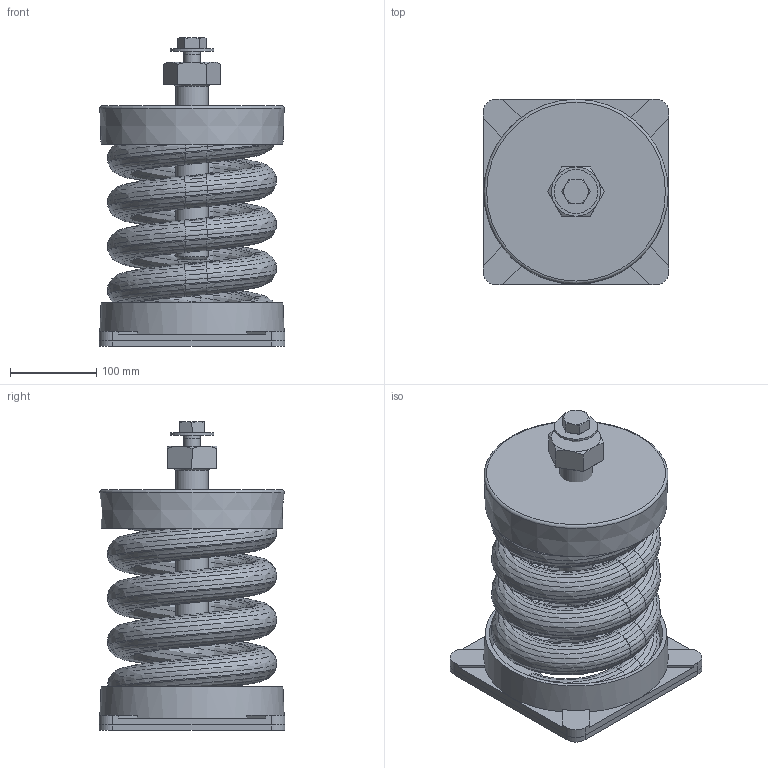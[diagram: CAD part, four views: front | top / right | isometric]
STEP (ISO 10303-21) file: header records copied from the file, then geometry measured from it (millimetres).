
FILE_DESCRIPTION(/* description */ (''),/* implementation_level */ '2;1');
FILE_NAME(/* name */ 'C:\001_Work\Designs\SLF ASSEMBLIES\SLF-116.stp',/* time_stamp */ '2016-01-10T15:00:49-05:00',/* author */ ('rramoutar'),/* organization */ ('Mason Industries Inc.'),/* preprocessor_version */ 'ST-DEVELOPER v15.6',/* originating_system */ 'Autodesk Inventor 2015',/* authorisation */ '');
FILE_SCHEMA (('CONFIG_CONTROL_DESIGN'));
Products named in the file (1): SLF-116
Bounding box: 215.9 x 215.9 x 358.75 mm (x, y, z)
Volume: 1747302.9 mm3; surface area: 963230 mm2
Topology: 7 solids, 7 shells, 652 faces, 1389 edges, 760 vertices
Faces by surface type: bspline 450, plane 143, cone 30, cylinder 26, torus 3
Full cylindrical faces by diameter (mm): 12.7 x4, 16.307 x1, 19.05 x1, 20.625 x1, 28.178 x1, 28.575 x1, 38.1 x1, 50.8 x1, 57.15 x1, 101.6 x2, 201.612 x2
Entity records: 35310 total; most frequent: CARTESIAN_POINT 24296, ORIENTED_EDGE 2714, EDGE_CURVE 1357, B_SPLINE_CURVE_WITH_KNOTS 912, DIRECTION 898, VERTEX_POINT 753, EDGE_LOOP 696, STYLED_ITEM 659
